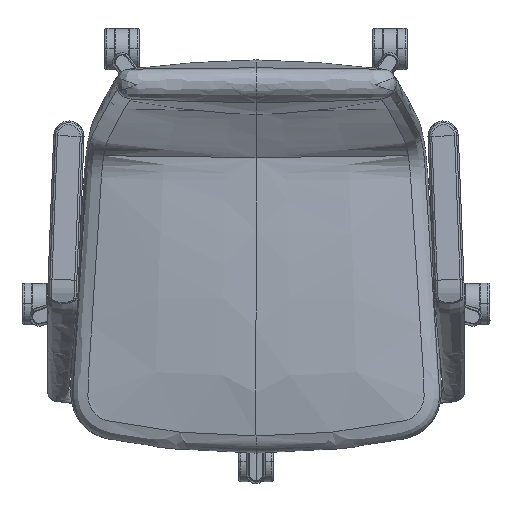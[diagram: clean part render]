
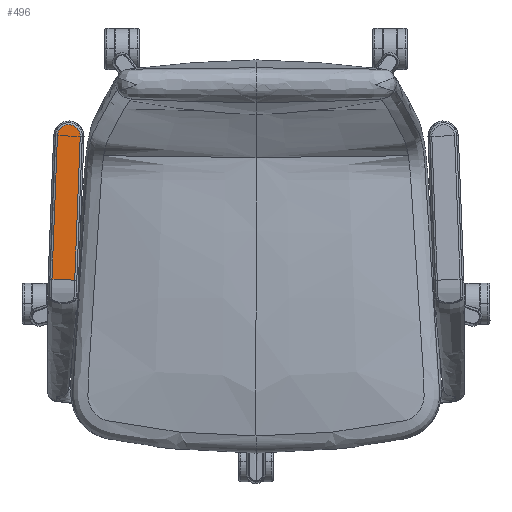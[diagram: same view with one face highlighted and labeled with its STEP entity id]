
A CAD part, top view. The second image highlights one B-rep face of the part: STEP entity #496.
In plain terms, the highlighted planar face has unit normal (0.001, 0.019, 1).
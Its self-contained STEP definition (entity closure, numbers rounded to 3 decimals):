
#157=PLANE('',#5329);
#496=ADVANCED_FACE('',(#845),#157,.T.);
#845=FACE_OUTER_BOUND('',#1198,.T.);
#1198=EDGE_LOOP('',(#2398,#2399));
#2398=ORIENTED_EDGE('',*,*,#3407,.T.);
#2399=ORIENTED_EDGE('',*,*,#3400,.F.);
#3400=EDGE_CURVE('',#4830,#4825,#3768,.T.);
#3407=EDGE_CURVE('',#4830,#4825,#4300,.T.);
#3768=B_SPLINE_CURVE_WITH_KNOTS('',1,(#19090,#19091),.UNSPECIFIED.,.F.,
 .F.,(2,2),(0.077,0.923),.UNSPECIFIED.);
#4300=(
BOUNDED_CURVE()
B_SPLINE_CURVE(3,(#19153,#19154,#19155,#19156,#19157,#19158,#19159,#19160,
#19161,#19162,#19163,#19164,#19165,#19166,#19167,#19168,#19169,#19170,#19171,
#19172,#19173,#19174,#19175),.UNSPECIFIED.,.F.,.F.)
B_SPLINE_CURVE_WITH_KNOTS((4,3,3,1,1,1,1,1,1,1,3,3,4),(0.,
4.793,208.24,214.719,221.199,227.678,
234.157,240.637,247.116,253.596,260.075,
463.522,468.315),.UNSPECIFIED.)
CURVE()
GEOMETRIC_REPRESENTATION_ITEM()
RATIONAL_B_SPLINE_CURVE((1.,1.,1.,1.,1.,1.,1.,1.,1.,1.,1.,
1.,1.,1.,1.,1.,1.,1.,
1.,1.,1.,1.,1.))
REPRESENTATION_ITEM('')
);
#4825=VERTEX_POINT('',#18971);
#4830=VERTEX_POINT('',#18976);
#5329=AXIS2_PLACEMENT_3D('',#18613,#5418,$);
#5418=DIRECTION('',(0.001,0.019,1.));
#18613=CARTESIAN_POINT('',(-289.75,179.126,650.772));
#18971=CARTESIAN_POINT('',(-295.503,-48.519,655.148));
#18976=CARTESIAN_POINT('',(-262.527,-49.788,655.148));
#19090=CARTESIAN_POINT('',(-262.527,-49.788,655.148));
#19091=CARTESIAN_POINT('',(-295.503,-48.519,655.148));
#19153=CARTESIAN_POINT('',(-262.527,-49.788,655.148));
#19154=CARTESIAN_POINT('',(-262.466,-48.191,655.117));
#19155=CARTESIAN_POINT('',(-262.404,-46.595,655.086));
#19156=CARTESIAN_POINT('',(-262.343,-44.999,655.056));
#19157=CARTESIAN_POINT('',(-259.738,22.754,653.753));
#19158=CARTESIAN_POINT('',(-257.131,90.507,652.45));
#19159=CARTESIAN_POINT('',(-254.526,158.26,651.147));
#19160=CARTESIAN_POINT('',(-254.441,160.418,651.105));
#19161=CARTESIAN_POINT('',(-255.135,164.766,651.022));
#19162=CARTESIAN_POINT('',(-258.591,170.394,650.917));
#19163=CARTESIAN_POINT('',(-263.938,174.272,650.846));
#19164=CARTESIAN_POINT('',(-270.363,175.809,650.821));
#19165=CARTESIAN_POINT('',(-276.886,174.77,650.846));
#19166=CARTESIAN_POINT('',(-282.516,171.315,650.917));
#19167=CARTESIAN_POINT('',(-286.394,165.968,651.022));
#19168=CARTESIAN_POINT('',(-287.419,161.686,651.105));
#19169=CARTESIAN_POINT('',(-287.501,159.528,651.147));
#19170=CARTESIAN_POINT('',(-290.107,91.775,652.45));
#19171=CARTESIAN_POINT('',(-292.713,24.022,653.753));
#19172=CARTESIAN_POINT('',(-295.319,-43.731,655.056));
#19173=CARTESIAN_POINT('',(-295.38,-45.327,655.086));
#19174=CARTESIAN_POINT('',(-295.442,-46.923,655.117));
#19175=CARTESIAN_POINT('',(-295.503,-48.519,655.148));
